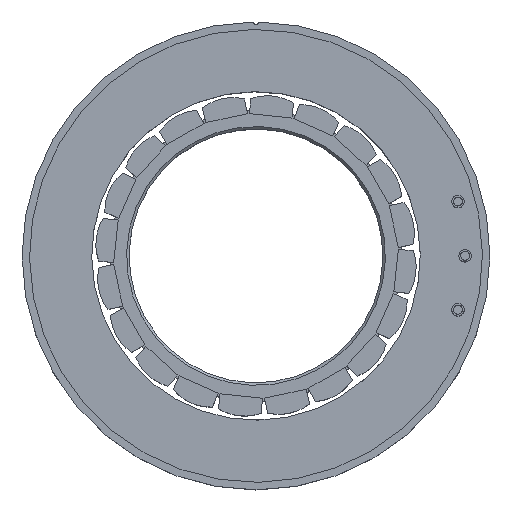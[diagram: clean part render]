
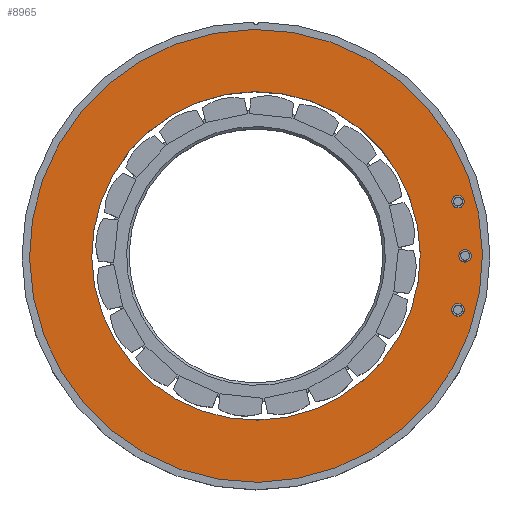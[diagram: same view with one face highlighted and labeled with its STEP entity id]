
A CAD part, top view. The second image highlights one B-rep face of the part: STEP entity #8965.
In plain terms, the highlighted planar face has unit normal (0, 0, 1).
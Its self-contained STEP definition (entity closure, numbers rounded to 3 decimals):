
#87 = DIRECTION ( 'NONE',  ( 0., 0., 1. ) ) ;
#214 = EDGE_LOOP ( 'NONE', ( #1674, #8470 ) ) ;
#603 = CARTESIAN_POINT ( 'NONE',  ( 33., 0., 24.2 ) ) ;
#898 = CARTESIAN_POINT ( 'NONE',  ( 0., 0., 24.2 ) ) ;
#973 = CARTESIAN_POINT ( 'NONE',  ( 45.5, 0., 24.2 ) ) ;
#1085 = VERTEX_POINT ( 'NONE', #7134 ) ;
#1261 = AXIS2_PLACEMENT_3D ( 'NONE', #3836, #6845, #9012 ) ;
#1275 = EDGE_LOOP ( 'NONE', ( #4514, #5168 ) ) ;
#1387 = AXIS2_PLACEMENT_3D ( 'NONE', #1640, #8454, #4716 ) ;
#1418 = CARTESIAN_POINT ( 'NONE',  ( 0., 0., 24.2 ) ) ;
#1462 = FACE_OUTER_BOUND ( 'NONE', #1275, .T. ) ;
#1640 = CARTESIAN_POINT ( 'NONE',  ( 0., 0., 24.2 ) ) ;
#1674 = ORIENTED_EDGE ( 'NONE', *, *, #5751, .F. ) ;
#2073 = VERTEX_POINT ( 'NONE', #603 ) ;
#2473 = DIRECTION ( 'NONE',  ( 0., 0., 1. ) ) ;
#2975 = CIRCLE ( 'NONE', #1261, 33. ) ;
#3033 = FACE_BOUND ( 'NONE', #214, .T. ) ;
#3777 = CARTESIAN_POINT ( 'NONE',  ( -45.5, 0., 24.2 ) ) ;
#3836 = CARTESIAN_POINT ( 'NONE',  ( 0., 0., 24.2 ) ) ;
#4009 = VERTEX_POINT ( 'NONE', #3777 ) ;
#4010 = DIRECTION ( 'NONE',  ( 1., 0., 0. ) ) ;
#4305 = CIRCLE ( 'NONE', #4618, 33. ) ;
#4514 = ORIENTED_EDGE ( 'NONE', *, *, #8335, .T. ) ;
#4618 = AXIS2_PLACEMENT_3D ( 'NONE', #898, #2473, #4010 ) ;
#4716 = DIRECTION ( 'NONE',  ( 1., 0., 0. ) ) ;
#5005 = AXIS2_PLACEMENT_3D ( 'NONE', #8082, #6505, #7196 ) ;
#5042 = CIRCLE ( 'NONE', #1387, 45.5 ) ;
#5057 = AXIS2_PLACEMENT_3D ( 'NONE', #1418, #87, #7448 ) ;
#5092 = EDGE_CURVE ( 'NONE', #9137, #4009, #8460, .T. ) ;
#5168 = ORIENTED_EDGE ( 'NONE', *, *, #5092, .T. ) ;
#5751 = EDGE_CURVE ( 'NONE', #1085, #2073, #4305, .T. ) ;
#6505 = DIRECTION ( 'NONE',  ( 0., 0., 1. ) ) ;
#6845 = DIRECTION ( 'NONE',  ( 0., 0., 1. ) ) ;
#7134 = CARTESIAN_POINT ( 'NONE',  ( -33., 0., 24.2 ) ) ;
#7196 = DIRECTION ( 'NONE',  ( 1., 0., 0. ) ) ;
#7448 = DIRECTION ( 'NONE',  ( 1., 0., 0. ) ) ;
#8082 = CARTESIAN_POINT ( 'NONE',  ( 0., 0., 24.2 ) ) ;
#8234 = PLANE ( 'NONE',  #5057 ) ;
#8335 = EDGE_CURVE ( 'NONE', #4009, #9137, #5042, .T. ) ;
#8454 = DIRECTION ( 'NONE',  ( 0., 0., 1. ) ) ;
#8460 = CIRCLE ( 'NONE', #5005, 45.5 ) ;
#8470 = ORIENTED_EDGE ( 'NONE', *, *, #9106, .F. ) ;
#8965 = ADVANCED_FACE ( 'NONE', ( #1462, #3033 ), #8234, .T. ) ;
#9012 = DIRECTION ( 'NONE',  ( 1., 0., 0. ) ) ;
#9106 = EDGE_CURVE ( 'NONE', #2073, #1085, #2975, .T. ) ;
#9137 = VERTEX_POINT ( 'NONE', #973 ) ;
